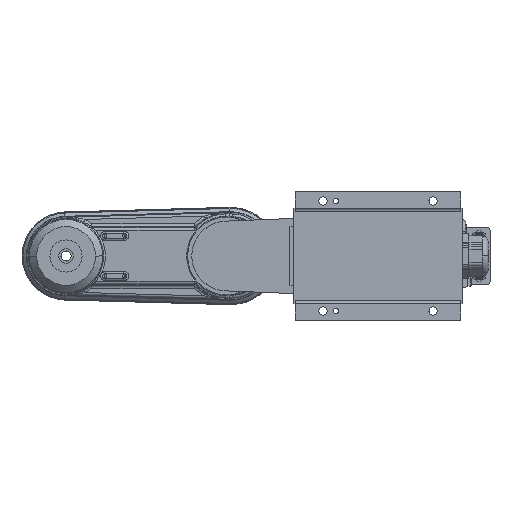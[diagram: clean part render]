
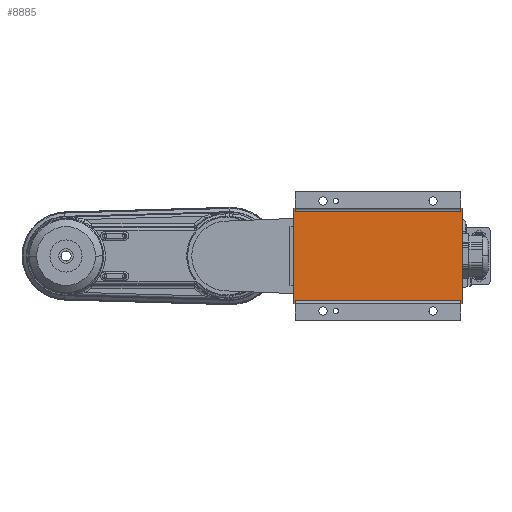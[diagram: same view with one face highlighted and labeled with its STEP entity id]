
A CAD part, front view. The second image highlights one B-rep face of the part: STEP entity #8885.
In plain terms, the highlighted planar face has unit normal (0, -1, 0).
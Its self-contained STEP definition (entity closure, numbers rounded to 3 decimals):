
#2112=DIRECTION('',(-1.,0.,0.));
#2113=VECTOR('',#2112,2.);
#2114=CARTESIAN_POINT('',(92.,3.,52.));
#2115=LINE('',#2114,#2113);
#2120=DIRECTION('',(-1.,0.,0.));
#2121=VECTOR('',#2120,2.);
#2122=CARTESIAN_POINT('',(-90.,3.,52.));
#2123=LINE('',#2122,#2121);
#2128=DIRECTION('',(0.,0.,-1.));
#2129=VECTOR('',#2128,104.);
#2130=CARTESIAN_POINT('',(92.,3.,52.));
#2131=LINE('',#2130,#2129);
#2132=DIRECTION('',(-1.,0.,0.));
#2133=VECTOR('',#2132,2.);
#2134=CARTESIAN_POINT('',(92.,3.,-52.));
#2135=LINE('',#2134,#2133);
#2136=DIRECTION('',(-1.,0.,0.));
#2137=VECTOR('',#2136,180.);
#2138=CARTESIAN_POINT('',(90.,3.,-49.));
#2139=LINE('',#2138,#2137);
#2140=DIRECTION('',(-1.,0.,0.));
#2141=VECTOR('',#2140,2.);
#2142=CARTESIAN_POINT('',(-90.,3.,-52.));
#2143=LINE('',#2142,#2141);
#2144=DIRECTION('',(0.,0.,1.));
#2145=VECTOR('',#2144,104.);
#2146=CARTESIAN_POINT('',(-92.,3.,-52.));
#2147=LINE('',#2146,#2145);
#2148=DIRECTION('',(-1.,0.,0.));
#2149=VECTOR('',#2148,180.);
#2150=CARTESIAN_POINT('',(90.,3.,49.));
#2151=LINE('',#2150,#2149);
#2174=DIRECTION('',(0.,0.,-1.));
#2175=VECTOR('',#2174,3.);
#2176=CARTESIAN_POINT('',(90.,3.,-49.));
#2177=LINE('',#2176,#2175);
#2178=DIRECTION('',(0.,0.,-1.));
#2179=VECTOR('',#2178,3.);
#2180=CARTESIAN_POINT('',(90.,3.,52.));
#2181=LINE('',#2180,#2179);
#2300=DIRECTION('',(0.,0.,-1.));
#2301=VECTOR('',#2300,3.);
#2302=CARTESIAN_POINT('',(-90.,3.,-49.));
#2303=LINE('',#2302,#2301);
#2318=DIRECTION('',(0.,0.,-1.));
#2319=VECTOR('',#2318,3.);
#2320=CARTESIAN_POINT('',(-90.,3.,52.));
#2321=LINE('',#2320,#2319);
#4462=CARTESIAN_POINT('',(-92.,3.,52.));
#4463=VERTEX_POINT('',#4462);
#4464=CARTESIAN_POINT('',(-92.,3.,-52.));
#4465=VERTEX_POINT('',#4464);
#4470=CARTESIAN_POINT('',(92.,3.,-52.));
#4471=VERTEX_POINT('',#4470);
#4472=CARTESIAN_POINT('',(92.,3.,52.));
#4473=VERTEX_POINT('',#4472);
#5224=CARTESIAN_POINT('',(-90.,3.,-52.));
#5226=VERTEX_POINT('',#5224);
#5228=CARTESIAN_POINT('',(-90.,3.,52.));
#5229=CARTESIAN_POINT('',(-90.,3.,49.));
#5230=VERTEX_POINT('',#5228);
#5231=VERTEX_POINT('',#5229);
#5232=CARTESIAN_POINT('',(-90.,3.,-49.));
#5233=VERTEX_POINT('',#5232);
#5244=CARTESIAN_POINT('',(90.,3.,-52.));
#5246=VERTEX_POINT('',#5244);
#5248=CARTESIAN_POINT('',(90.,3.,52.));
#5249=CARTESIAN_POINT('',(90.,3.,49.));
#5250=VERTEX_POINT('',#5248);
#5251=VERTEX_POINT('',#5249);
#5252=CARTESIAN_POINT('',(90.,3.,-49.));
#5253=VERTEX_POINT('',#5252);
#8857=CARTESIAN_POINT('',(0.,3.,0.));
#8858=DIRECTION('',(0.,1.,0.));
#8859=DIRECTION('',(0.,0.,-1.));
#8860=AXIS2_PLACEMENT_3D('',#8857,#8858,#8859);
#8861=PLANE('',#8860);
#8863=ORIENTED_EDGE('',*,*,#8862,.F.);
#8865=ORIENTED_EDGE('',*,*,#8864,.F.);
#8866=ORIENTED_EDGE('',*,*,#8834,.F.);
#8867=ORIENTED_EDGE('',*,*,#5837,.T.);
#8869=ORIENTED_EDGE('',*,*,#8868,.T.);
#8871=ORIENTED_EDGE('',*,*,#8870,.F.);
#8873=ORIENTED_EDGE('',*,*,#8872,.T.);
#8875=ORIENTED_EDGE('',*,*,#8874,.T.);
#8877=ORIENTED_EDGE('',*,*,#8876,.T.);
#8879=ORIENTED_EDGE('',*,*,#8878,.T.);
#8880=ORIENTED_EDGE('',*,*,#8842,.F.);
#8882=ORIENTED_EDGE('',*,*,#8881,.T.);
#8883=EDGE_LOOP('',(#8863,#8865,#8866,#8867,#8869,#8871,#8873,#8875,#8877,#8879,
#8880,#8882));
#8884=FACE_OUTER_BOUND('',#8883,.F.);
#5837=EDGE_CURVE('',#4473,#4471,#2131,.T.);
#8834=EDGE_CURVE('',#4473,#5250,#2115,.T.);
#8842=EDGE_CURVE('',#5230,#4463,#2123,.T.);
#8862=EDGE_CURVE('',#5251,#5231,#2151,.T.);
#8864=EDGE_CURVE('',#5250,#5251,#2181,.T.);
#8868=EDGE_CURVE('',#4471,#5246,#2135,.T.);
#8870=EDGE_CURVE('',#5253,#5246,#2177,.T.);
#8872=EDGE_CURVE('',#5253,#5233,#2139,.T.);
#8874=EDGE_CURVE('',#5233,#5226,#2303,.T.);
#8876=EDGE_CURVE('',#5226,#4465,#2143,.T.);
#8878=EDGE_CURVE('',#4465,#4463,#2147,.T.);
#8881=EDGE_CURVE('',#5230,#5231,#2321,.T.);
#8885=ADVANCED_FACE('',(#8884),#8861,.F.);
